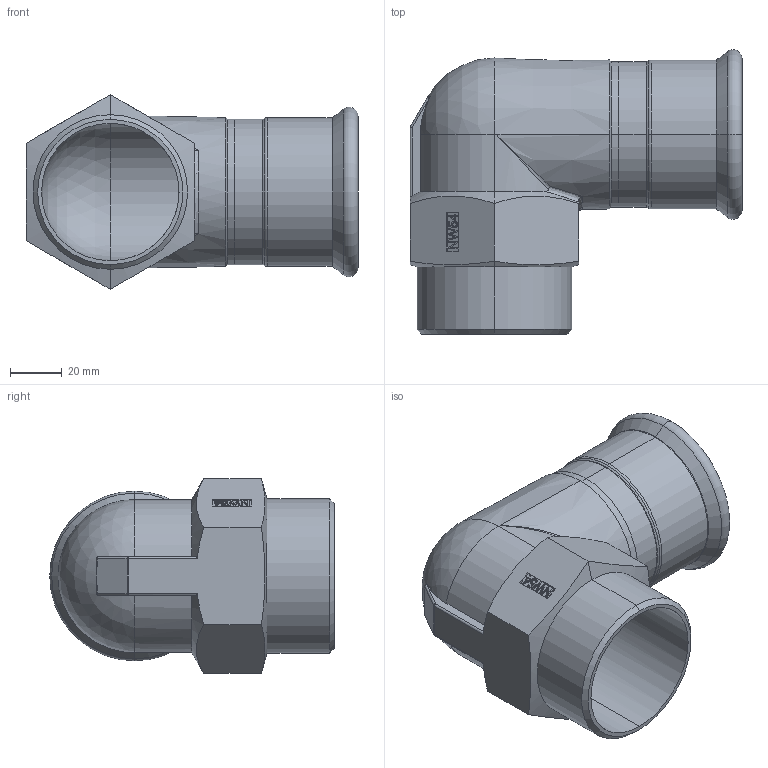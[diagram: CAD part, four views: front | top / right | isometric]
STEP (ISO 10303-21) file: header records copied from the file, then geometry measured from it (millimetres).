
FILE_DESCRIPTION (( 'STEP AP203' ), '1' );
FILE_NAME ('GDA5277.STEP', '2019-01-15T05:38:32', ( '' ), ( '' ), 'SwSTEP 2.0', 'SolidWorks 2015', '' );
FILE_SCHEMA (( 'CONFIG_CONTROL_DESIGN' ));
Length unit declared in the file: millimetre
Products named in the file (3): GDA5277; T-ｉ-01-54; OD54｡ﾁ2
Assembly tree (2 placements, depth 2):
  GDA5277
    OD54｡ﾁ2
    T-ｉ-01-54
Bounding box: 128 x 109.7 x 75.06 mm (x, y, z)
Volume: 100984.6 mm3; surface area: 64351.5 mm2
Topology: 2 solids, 2 shells, 156 faces, 379 edges, 229 vertices
Faces by surface type: plane 70, cylinder 30, cone 19, torus 17, bspline 14, sphere 6
Entity records: 5706 total; most frequent: CARTESIAN_POINT 1875, ORIENTED_EDGE 746, DIRECTION 712, EDGE_CURVE 373, AXIS2_PLACEMENT_3D 249, VERTEX_POINT 228, VECTOR 214, LINE 214
